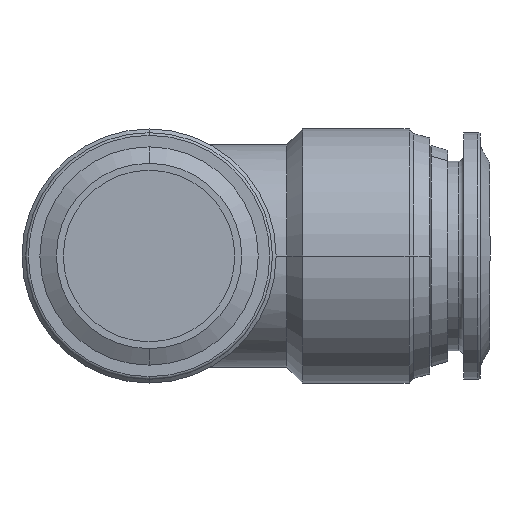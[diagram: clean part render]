
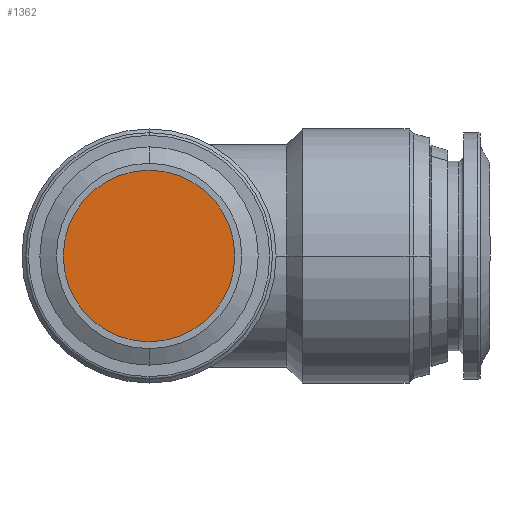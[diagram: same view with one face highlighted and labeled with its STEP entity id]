
A CAD part, left-side view. The second image highlights one B-rep face of the part: STEP entity #1362.
In plain terms, the highlighted planar face has unit normal (-1, 0, 0).
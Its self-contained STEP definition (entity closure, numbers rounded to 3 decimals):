
#82 = VERTEX_POINT ( 'NONE', #3401 ) ;
#490 = CARTESIAN_POINT ( 'NONE',  ( -9.2, 0., 8.1 ) ) ;
#509 = AXIS2_PLACEMENT_3D ( 'NONE', #2774, #678, #2714 ) ;
#605 = CIRCLE ( 'NONE', #1976, 8.1 ) ;
#628 = CIRCLE ( 'NONE', #509, 8.1 ) ;
#678 = DIRECTION ( 'NONE',  ( -1., 0., 0. ) ) ;
#907 = FACE_OUTER_BOUND ( 'NONE', #1438, .T. ) ;
#960 = PLANE ( 'NONE',  #3588 ) ;
#979 = DIRECTION ( 'NONE',  ( 0., -1., 0. ) ) ;
#1145 = DIRECTION ( 'NONE',  ( -1., 0., 0. ) ) ;
#1257 = ORIENTED_EDGE ( 'NONE', *, *, #2093, .T. ) ;
#1362 = ADVANCED_FACE ( 'NONE', ( #907 ), #960, .T. ) ;
#1438 = EDGE_LOOP ( 'NONE', ( #1257, #1515 ) ) ;
#1515 = ORIENTED_EDGE ( 'NONE', *, *, #3800, .T. ) ;
#1575 = DIRECTION ( 'NONE',  ( -1., 0., 0. ) ) ;
#1716 = CARTESIAN_POINT ( 'NONE',  ( -9.2, 0., 0. ) ) ;
#1722 = VERTEX_POINT ( 'NONE', #490 ) ;
#1976 = AXIS2_PLACEMENT_3D ( 'NONE', #1716, #1145, #3727 ) ;
#2093 = EDGE_CURVE ( 'NONE', #1722, #82, #605, .T. ) ;
#2149 = CARTESIAN_POINT ( 'NONE',  ( -9.2, 0., 0. ) ) ;
#2714 = DIRECTION ( 'NONE',  ( 0., -1., 0. ) ) ;
#2774 = CARTESIAN_POINT ( 'NONE',  ( -9.2, 0., 0. ) ) ;
#3401 = CARTESIAN_POINT ( 'NONE',  ( -9.2, 0., -8.1 ) ) ;
#3588 = AXIS2_PLACEMENT_3D ( 'NONE', #2149, #1575, #979 ) ;
#3727 = DIRECTION ( 'NONE',  ( 0., -1., 0. ) ) ;
#3800 = EDGE_CURVE ( 'NONE', #82, #1722, #628, .T. ) ;
